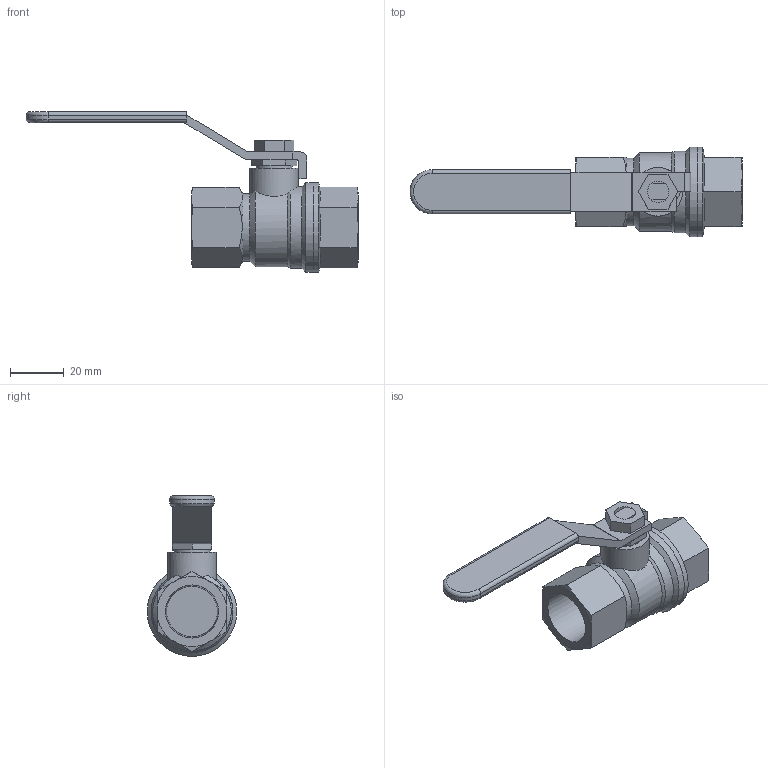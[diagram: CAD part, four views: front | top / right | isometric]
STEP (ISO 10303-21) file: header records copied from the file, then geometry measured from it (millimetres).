
FILE_DESCRIPTION((' '),'2;1');
FILE_NAME('N:\Technical Support\Private\Jomar Valve CAD\Ball Valves\Brass\T-100NE[G]\.5 T-100NE[G] (100-703[NGDZ])FusionCopy.stp.step','2016-07-05T16:34:05',(' '),(' '),' ','ACIS',' ');
FILE_SCHEMA(('CONFIG_CONTROL_DESIGN'));
Length unit declared in the file: inch
Products named in the file (8): N:\Technical Support\Private\Jomar Valve CAD\Ball Valves\Brass\T-100NE[G]\.5 T-100NE[G] (100-703[NGDZ])FusionCopy.stp.step; Body1; Body2; Body3; Body4; Body5; Body6; Body7
Assembly tree (7 placements, depth 2):
  N:\Technical Support\Private\Jomar Valve CAD\Ball Valves\Brass\T-100NE[G]\.5 T-100NE[G] (100-703[NGDZ])FusionCopy.stp.step
    Body1
    Body2
    Body3
    Body4
    Body5
    Body6
    Body7
Bounding box: 123.69 x 33.45 x 59.9 mm (x, y, z)
Volume: 43169.6 mm3; surface area: 18630.1 mm2
Topology: 7 solids, 7 shells, 109 faces, 272 edges, 180 vertices
Faces by surface type: plane 41, bspline 40, cone 18, cylinder 10
Full cylindrical faces by diameter (mm): 8.001 x1, 9.017 x1, 9.652 x1, 13.437 x1, 18.085 x1, 25.324 x1, 30.48 x1, 33.452 x2
Entity records: 4513 total; most frequent: CARTESIAN_POINT 1090, ORIENTED_EDGE 498, DIRECTION 440, EDGE_CURVE 249, VERTEX_POINT 171, AXIS2_PLACEMENT_3D 152, VECTOR 136, LINE 136
